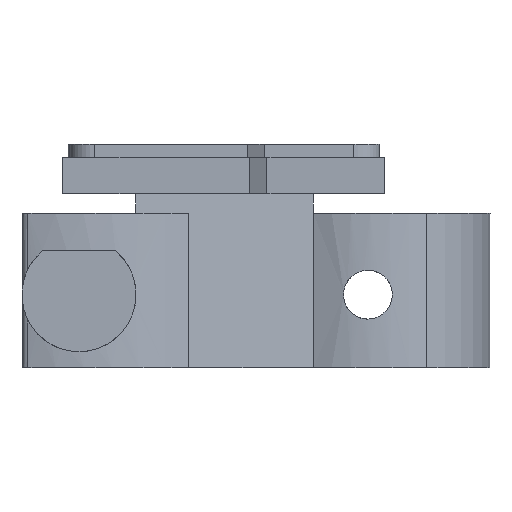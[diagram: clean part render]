
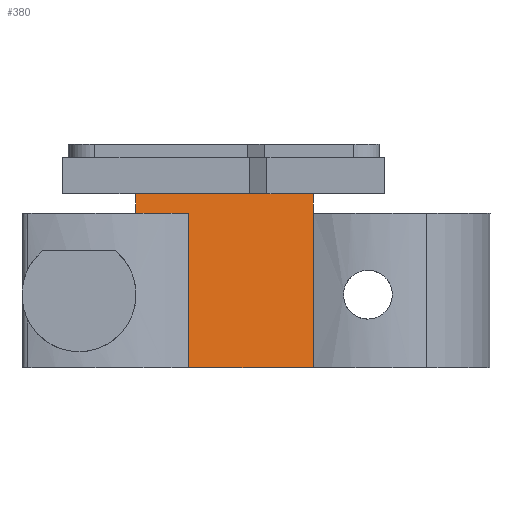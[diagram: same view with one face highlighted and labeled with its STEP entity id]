
A CAD part, front view. The second image highlights one B-rep face of the part: STEP entity #380.
In plain terms, the highlighted planar face has unit normal (0.259, -0.966, 0).
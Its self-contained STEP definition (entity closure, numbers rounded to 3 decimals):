
#101 = VECTOR ( 'NONE', #4808, 1000. ) ;
#145 = EDGE_LOOP ( 'NONE', ( #4312, #302, #3188, #506, #4079, #2011, #2518, #5218 ) ) ;
#302 = ORIENTED_EDGE ( 'NONE', *, *, #1317, .F. ) ;
#380 = ADVANCED_FACE ( 'NONE', ( #2331 ), #3533, .T. ) ;
#412 = CARTESIAN_POINT ( 'NONE',  ( -8.268, -18.634, 17.1 ) ) ;
#506 = ORIENTED_EDGE ( 'NONE', *, *, #5133, .F. ) ;
#521 = VECTOR ( 'NONE', #1340, 1000. ) ;
#836 = CARTESIAN_POINT ( 'NONE',  ( 7.05, -14.53, 38.5 ) ) ;
#878 = CARTESIAN_POINT ( 'NONE',  ( 7.05, -14.53, 17.1 ) ) ;
#980 = VERTEX_POINT ( 'NONE', #4559 ) ;
#1065 = LINE ( 'NONE', #2769, #4669 ) ;
#1221 = VERTEX_POINT ( 'NONE', #2087 ) ;
#1305 = DIRECTION ( 'NONE',  ( 0., 0., -1. ) ) ;
#1317 = EDGE_CURVE ( 'NONE', #3514, #3696, #4041, .T. ) ;
#1337 = AXIS2_PLACEMENT_3D ( 'NONE', #878, #2632, #4351 ) ;
#1340 = DIRECTION ( 'NONE',  ( 0., 0., -1. ) ) ;
#1789 = LINE ( 'NONE', #3243, #5112 ) ;
#1856 = LINE ( 'NONE', #2584, #3695 ) ;
#1935 = EDGE_CURVE ( 'NONE', #980, #3514, #1856, .T. ) ;
#2011 = ORIENTED_EDGE ( 'NONE', *, *, #4264, .T. ) ;
#2087 = CARTESIAN_POINT ( 'NONE',  ( 7.05, -14.53, 17.1 ) ) ;
#2123 = EDGE_CURVE ( 'NONE', #1221, #4206, #1789, .T. ) ;
#2264 = CARTESIAN_POINT ( 'NONE',  ( 7.05, -14.53, 36.1 ) ) ;
#2312 = DIRECTION ( 'NONE',  ( 0.966, 0.259, 0. ) ) ;
#2331 = FACE_OUTER_BOUND ( 'NONE', #145, .T. ) ;
#2518 = ORIENTED_EDGE ( 'NONE', *, *, #3040, .T. ) ;
#2584 = CARTESIAN_POINT ( 'NONE',  ( 7.05, -14.53, 38.5 ) ) ;
#2632 = DIRECTION ( 'NONE',  ( 0.259, -0.966, 0. ) ) ;
#2717 = CARTESIAN_POINT ( 'NONE',  ( 7.05, -14.53, 38.5 ) ) ;
#2769 = CARTESIAN_POINT ( 'NONE',  ( 7.05, -14.53, 17.1 ) ) ;
#3039 = LINE ( 'NONE', #5274, #521 ) ;
#3040 = EDGE_CURVE ( 'NONE', #5460, #4206, #3558, .T. ) ;
#3140 = CARTESIAN_POINT ( 'NONE',  ( -8.268, -18.634, 17.1 ) ) ;
#3188 = ORIENTED_EDGE ( 'NONE', *, *, #1935, .F. ) ;
#3236 = VECTOR ( 'NONE', #1305, 1000. ) ;
#3243 = CARTESIAN_POINT ( 'NONE',  ( -8.268, -18.634, 17.1 ) ) ;
#3457 = LINE ( 'NONE', #2717, #101 ) ;
#3514 = VERTEX_POINT ( 'NONE', #4252 ) ;
#3522 = DIRECTION ( 'NONE',  ( 0.966, 0.259, 0. ) ) ;
#3533 = PLANE ( 'NONE',  #1337 ) ;
#3558 = LINE ( 'NONE', #412, #3816 ) ;
#3690 = DIRECTION ( 'NONE',  ( -0.966, -0.259, 0. ) ) ;
#3695 = VECTOR ( 'NONE', #3522, 1000. ) ;
#3696 = VERTEX_POINT ( 'NONE', #2264 ) ;
#3816 = VECTOR ( 'NONE', #5534, 1000. ) ;
#4041 = LINE ( 'NONE', #836, #3236 ) ;
#4079 = ORIENTED_EDGE ( 'NONE', *, *, #5180, .T. ) ;
#4100 = DIRECTION ( 'NONE',  ( 0., 0., 1. ) ) ;
#4206 = VERTEX_POINT ( 'NONE', #3140 ) ;
#4252 = CARTESIAN_POINT ( 'NONE',  ( 7.05, -14.53, 38.5 ) ) ;
#4264 = EDGE_CURVE ( 'NONE', #5633, #5460, #4595, .T. ) ;
#4293 = EDGE_CURVE ( 'NONE', #1221, #3696, #1065, .T. ) ;
#4312 = ORIENTED_EDGE ( 'NONE', *, *, #4293, .T. ) ;
#4351 = DIRECTION ( 'NONE',  ( 0.966, 0.259, 0. ) ) ;
#4499 = CARTESIAN_POINT ( 'NONE',  ( 7.05, -14.53, 36.1 ) ) ;
#4559 = CARTESIAN_POINT ( 'NONE',  ( -13.891, -20.141, 38.5 ) ) ;
#4595 = LINE ( 'NONE', #4499, #5546 ) ;
#4669 = VECTOR ( 'NONE', #4100, 1000. ) ;
#4808 = DIRECTION ( 'NONE',  ( 0.966, 0.259, 0. ) ) ;
#4974 = VERTEX_POINT ( 'NONE', #5596 ) ;
#5112 = VECTOR ( 'NONE', #3690, 1000. ) ;
#5133 = EDGE_CURVE ( 'NONE', #4974, #980, #3457, .T. ) ;
#5180 = EDGE_CURVE ( 'NONE', #4974, #5633, #3039, .T. ) ;
#5218 = ORIENTED_EDGE ( 'NONE', *, *, #2123, .F. ) ;
#5274 = CARTESIAN_POINT ( 'NONE',  ( -14.75, -20.371, 38.5 ) ) ;
#5460 = VERTEX_POINT ( 'NONE', #5468 ) ;
#5468 = CARTESIAN_POINT ( 'NONE',  ( -8.268, -18.634, 36.1 ) ) ;
#5534 = DIRECTION ( 'NONE',  ( 0., 0., -1. ) ) ;
#5546 = VECTOR ( 'NONE', #2312, 1000. ) ;
#5596 = CARTESIAN_POINT ( 'NONE',  ( -14.75, -20.371, 38.5 ) ) ;
#5629 = CARTESIAN_POINT ( 'NONE',  ( -14.75, -20.371, 36.1 ) ) ;
#5633 = VERTEX_POINT ( 'NONE', #5629 ) ;
